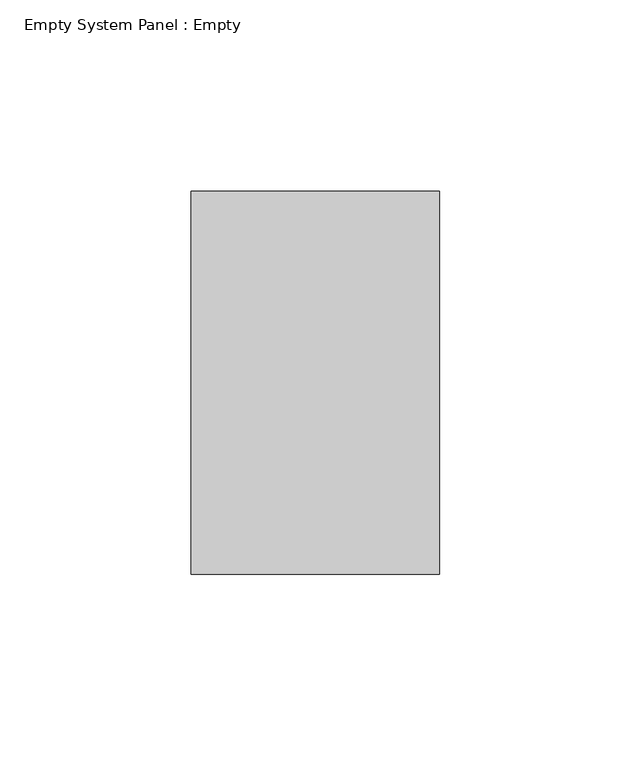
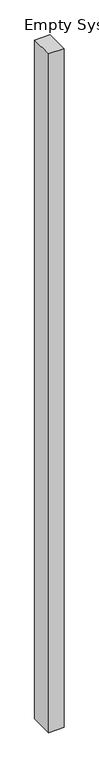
"""IFC4 building model written with IfcOpenShell, lengths in millimetres: plate geometry, Empty System Panel : Empty."""

from ifc_helpers import new_model, si_unit, origin, origin_with_axes, place, context, project, spatial, polyline, outline, extrude, source, transform, mapped, element, save


def empty_system_panel_empty_86793474(model_context):
    return source(origin(), model_context, "Body", "SweptSolid", [
        extrude(outline(polyline([(32.3877204, 50.0), (-32.3877204, 50.0), (-32.3877204, 150.0), (32.3877204, 150.0), (32.3877204, 50.0)])), origin_with_axes(), (0.0, 0.0, 1.0), 3000.0),
    ])


if __name__ == "__main__":
    model = new_model("IFC4")
    model_context = context("Model", 3, world=origin())
    ifc_project = project(units=[si_unit("LENGTHUNIT", "METRE", prefix="MILLI")], contexts=[model_context])
    site = spatial("IfcSite", under=ifc_project)
    building = spatial("IfcBuilding", under=site)
    placement = place(None, origin())
    empty_system_panel_empty_shape = empty_system_panel_empty_86793474(model_context)
    element("IfcPlate", 1, ObjectType="Empty System Panel : Empty", at=placement, inside=building, context=model_context, shape_type="MappedRepresentation", body=[
        mapped(empty_system_panel_empty_shape, transform((0.0, 0.0, 0.0), x_axis=(1.0, 0.0, 0.0), y_axis=(0.0, 1.0, 0.0), z_axis=(0.0, 0.0, 1.0))),
    ])
    save(model, "model.ifc")
